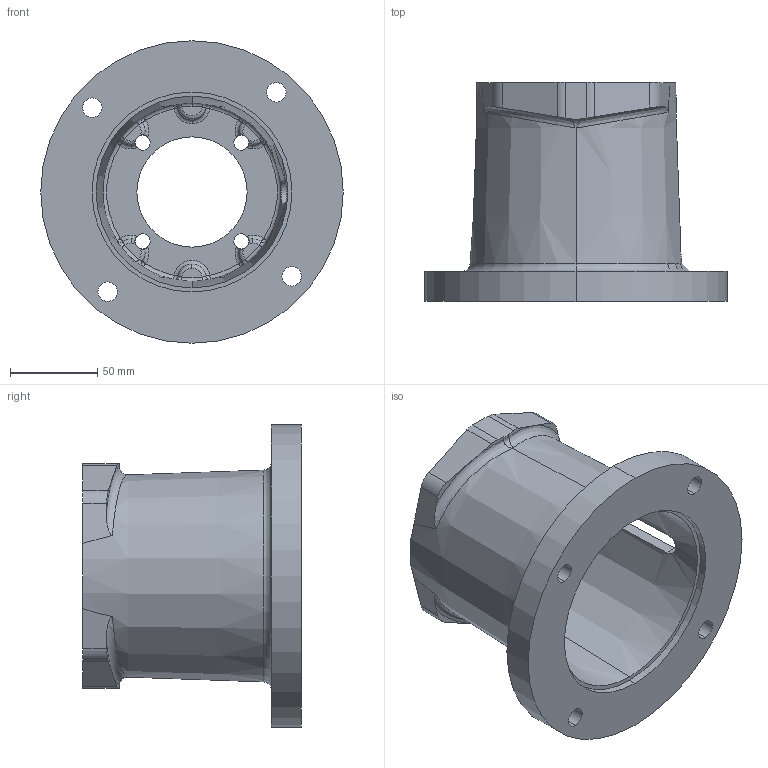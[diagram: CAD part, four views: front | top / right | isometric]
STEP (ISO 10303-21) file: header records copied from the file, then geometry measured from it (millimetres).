
FILE_DESCRIPTION (( 'STEP AP203' ), '1' );
FILE_NAME ('M0565063MS.STEP', '2015-01-19T15:30:05', ( '' ), ( '' ), 'SwSTEP 2.0', 'SolidWorks 2014', '' );
FILE_SCHEMA (( 'CONFIG_CONTROL_DESIGN' ));
Length unit declared in the file: inch
Products named in the file (1): M0565063MS
Bounding box: 172.97 x 125.07 x 172.97 mm (x, y, z)
Volume: 551806.3 mm3; surface area: 131045.1 mm2
Topology: 1 solids, 1 shells, 183 faces, 481 edges, 284 vertices
Faces by surface type: torus 54, cylinder 34, bspline 30, plane 27, sphere 24, cone 14
Entity records: 7788 total; most frequent: CARTESIAN_POINT 3402, ORIENTED_EDGE 934, DIRECTION 926, EDGE_CURVE 467, AXIS2_PLACEMENT_3D 427, VERTEX_POINT 284, CIRCLE 273, EDGE_LOOP 201
